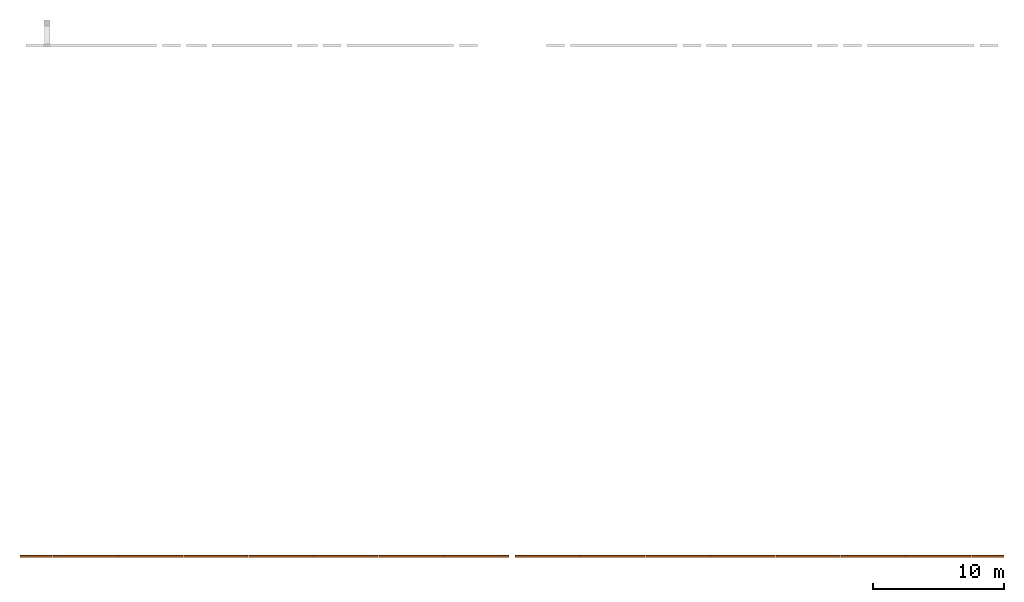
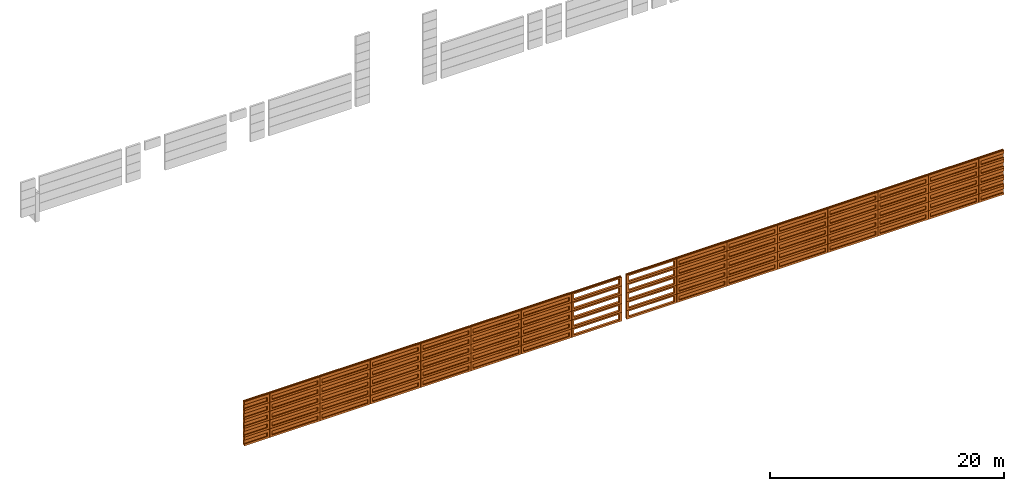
# One storey, part 3 of 3: 80 proxies.
"""IFC2X3 building model written with IfcOpenShell, lengths in millimetres."""

from ifc_helpers import new_model, entity, si_unit, converted_unit, derived_unit, direction, frame, origin, place, context, subcontext, project, spatial, faceted_brep, source, transform, mapped, material, type_object, type_shapes, element, save


model = new_model("IFC2X3")

# Units and contexts
model_context = context("Model", 3, precision=0.01, world=origin(), true_north=direction((6.12303176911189e-17, 1.0)))
body_context = subcontext(model_context, "Body", "Model", "MODEL_VIEW")
ifc_project = project(units=[si_unit("LENGTHUNIT", "METRE", prefix="MILLI"), si_unit("AREAUNIT", "SQUARE_METRE"), si_unit("VOLUMEUNIT", "CUBIC_METRE"), converted_unit("PLANEANGLEUNIT", "DEGREE", entity("IfcRatioMeasure", 0.0174532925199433), si_unit("PLANEANGLEUNIT", "RADIAN"), dimensions=[0, 0, 0, 0, 0, 0, 0]), si_unit("MASSUNIT", "GRAM", prefix="KILO"), derived_unit("MASSDENSITYUNIT", [(si_unit("MASSUNIT", "GRAM", prefix="KILO"), 1), (si_unit("LENGTHUNIT", "METRE"), -3)]), derived_unit("MOMENTOFINERTIAUNIT", [(si_unit("LENGTHUNIT", "METRE"), 4)]), si_unit("TIMEUNIT", "SECOND"), si_unit("FREQUENCYUNIT", "HERTZ"), si_unit("THERMODYNAMICTEMPERATUREUNIT", "DEGREE_CELSIUS"), derived_unit("THERMALTRANSMITTANCEUNIT", [(si_unit("MASSUNIT", "GRAM", prefix="KILO"), 1), (si_unit("THERMODYNAMICTEMPERATUREUNIT", "KELVIN"), -1), (si_unit("TIMEUNIT", "SECOND"), -3)]), derived_unit("VOLUMETRICFLOWRATEUNIT", [(si_unit("LENGTHUNIT", "METRE"), 3), (si_unit("TIMEUNIT", "SECOND"), -1)]), si_unit("ELECTRICCURRENTUNIT", "AMPERE"), si_unit("ELECTRICVOLTAGEUNIT", "VOLT"), si_unit("POWERUNIT", "WATT"), si_unit("FORCEUNIT", "NEWTON", prefix="KILO"), si_unit("ILLUMINANCEUNIT", "LUX"), si_unit("LUMINOUSFLUXUNIT", "LUMEN"), si_unit("LUMINOUSINTENSITYUNIT", "CANDELA"), derived_unit("USERDEFINED", [(si_unit("MASSUNIT", "GRAM", prefix="KILO"), -1), (si_unit("LENGTHUNIT", "METRE"), -2), (si_unit("TIMEUNIT", "SECOND"), 3), (si_unit("LUMINOUSFLUXUNIT", "LUMEN"), 1)]), derived_unit("LINEARVELOCITYUNIT", [(si_unit("LENGTHUNIT", "METRE"), 1), (si_unit("TIMEUNIT", "SECOND"), -1)]), si_unit("PRESSUREUNIT", "PASCAL"), derived_unit("USERDEFINED", [(si_unit("LENGTHUNIT", "METRE"), -2), (si_unit("MASSUNIT", "GRAM", prefix="KILO"), 1), (si_unit("TIMEUNIT", "SECOND"), -2)]), derived_unit("LINEARFORCEUNIT", [(si_unit("MASSUNIT", "GRAM", prefix="KILO"), 1), (si_unit("LENGTHUNIT", "METRE"), 1), (si_unit("TIMEUNIT", "SECOND"), -2), (si_unit("LENGTHUNIT", "METRE"), -1)]), derived_unit("PLANARFORCEUNIT", [(si_unit("MASSUNIT", "GRAM", prefix="KILO"), 1), (si_unit("LENGTHUNIT", "METRE"), 1), (si_unit("TIMEUNIT", "SECOND"), -2), (si_unit("LENGTHUNIT", "METRE"), -2)])], contexts=[model_context])

# Site, building, storey
site_placement = place(None, frame((10627.5135316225, 21939.0796949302, 0.0)))
site = spatial("IfcSite", under=ifc_project, at=site_placement, Name="Default", CompositionType="ELEMENT")
building_placement = place(site_placement, origin())
building = spatial("IfcBuilding", under=site, at=building_placement, CompositionType="ELEMENT")
storey_placement = place(building_placement, frame((0.0, 0.0, 3660.0)))
storey = spatial("IfcBuildingStorey", under=building, at=storey_placement, Name="R+1", CompositionType="ELEMENT", Elevation=3660.0)

# Proxies
ifc_material = material(Name="Concrete, Precast Smooth, Light Grey")
building_element_proxy_type_1 = type_object("IfcBuildingElementProxyType", Name="Panneaux fille 18 ajoures:Panneaux fille 18 ajoures", PredefinedType="NOTDEFINED", material=ifc_material)
shared_shape_1 = source(origin(), body_context, "Body", "Brep", [
    faceted_brep([(2469.0, -101.438076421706, -51.6077760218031), (2469.0, 0.0, -60.0), (2469.0, 0.0, 849.947802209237), (2469.0, -111.86949138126, 859.004887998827), (2469.0, -132.472854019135, 910.0), (2469.0, -205.0, 910.0), (2469.0, -205.0, 0.0), (2469.0, -122.139961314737, 0.0), (-2469.0, -101.438076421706, -51.6077760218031), (-2469.0, -122.139961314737, 0.0), (-2469.0, -205.0, 0.0), (-2469.0, -205.0, 910.0), (-2469.0, -132.472854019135, 910.0), (-2469.0, -111.86949138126, 859.004887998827), (-2469.0, 0.0, 849.947802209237), (-2469.0, 0.0, -60.0), (2266.0, 0.0, 711.195062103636), (-2247.406298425, 0.0, 711.195062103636), (-2247.406298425, 0.0, 138.918268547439), (2266.0, 0.0, 138.918268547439), (-2208.456298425, -205.0, 711.195062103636), (2227.05, -205.0, 711.195062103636), (2227.05, -205.0, 138.918268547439), (-2208.456298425, -205.0, 138.918268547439)], [[[0, 1, 2, 3, 4, 5, 6, 7]], [[8, 9, 10, 11, 12, 13, 14, 15]], [[2, 1, 15, 14], [16, 17, 18, 19]], [[3, 2, 14, 13]], [[4, 3, 13, 12]], [[5, 4, 12, 11]], [[6, 5, 11, 10], [20, 21, 22, 23]], [[7, 6, 10, 9]], [[0, 7, 9, 8]], [[1, 0, 8, 15]], [[20, 17, 16, 21]], [[22, 19, 18, 23]], [[21, 16, 19, 22]], [[17, 20, 23, 18]]]),
])
type_shapes(building_element_proxy_type_1, [shared_shape_1])
for number, where, z_axis, x_axis, name in (
    (1, (23878.4864683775, -22365.8040495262, 220.0), (0.0, 0.0, 1.0), (-1.0, 0.0, 0.0), "Panneaux fille 18 ajoures:Panneaux fille 18 ajoures"),
    (2, (23878.4864683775, -22365.8040495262, 1140.0), (0.0, 0.0, 1.0), (-1.0, 0.0, 0.0), "Panneaux fille 18 ajoures:Panneaux fille 18 ajoures"),
    (3, (23878.4864683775, -22365.8040495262, 2060.0), (0.0, 0.0, 1.0), (-1.0, 0.0, 0.0), "Panneaux fille 18 ajoures:Panneaux fille 18 ajoures"),
    (4, (23878.4864683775, -22365.8040495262, 2980.0), (0.0, 0.0, 1.0), (-1.0, 0.0, 0.0), "Panneaux fille 18 ajoures:Panneaux fille 18 ajoures"),
    (5, (23878.4864683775, -22365.8040495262, 3900.0), (0.0, 0.0, 1.0), (-1.0, 0.0, 0.0), "Panneaux fille 18 ajoures:Panneaux fille 18 ajoures"),
):
    element("IfcBuildingElementProxy", number, at=place(storey_placement, frame(where, z_axis=z_axis, x_axis=x_axis)), inside=storey, type_object=building_element_proxy_type_1, material=ifc_material, Name=name, ObjectType="Panneaux fille 18 ajoures:Panneaux fille 18 ajoures", context=body_context, shape_type="MappedRepresentation", body=[
        mapped(shared_shape_1, transform((0.0, 0.0, 0.0), scale=1.0)),
    ])
building_element_proxy_type_2 = type_object("IfcBuildingElementProxyType", Name="Panneaux fille 18:Panneaux fille 18", PredefinedType="NOTDEFINED", material=ifc_material)
shared_shape_2 = source(origin(), body_context, "Body", "Brep", [
    faceted_brep([(2469.0, -101.438076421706, -51.6077760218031), (2469.0, 0.0, -60.0), (2469.0, 0.0, 849.947802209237), (2469.0, -111.86949138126, 859.004887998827), (2469.0, -132.472854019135, 910.0), (2469.0, -205.0, 910.0), (2469.0, -205.0, 0.0), (2469.0, -122.139961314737, 0.0), (-2469.0, -101.438076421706, -51.6077760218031), (-2469.0, -122.139961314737, 0.0), (-2469.0, -205.0, 0.0), (-2469.0, -205.0, 910.0), (-2469.0, -132.472854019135, 910.0), (-2469.0, -111.86949138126, 859.004887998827), (-2469.0, 0.0, 849.947802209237), (-2469.0, 0.0, -60.0), (2266.0, 0.0, 540.228023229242), (-2266.21685996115, 0.0, 540.228023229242), (-2266.21685996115, 0.0, 138.918268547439), (2266.0, 0.0, 138.918268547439), (2247.39157001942, -97.9391051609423, 540.228023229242), (-2247.60842998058, -97.9391051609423, 540.228023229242), (-2247.60842998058, -97.9391051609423, 138.918268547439), (2247.39157001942, -97.9391051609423, 138.918268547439)], [[[0, 1, 2, 3, 4, 5, 6, 7]], [[8, 9, 10, 11, 12, 13, 14, 15]], [[2, 1, 15, 14], [16, 17, 18, 19]], [[3, 2, 14, 13]], [[4, 3, 13, 12]], [[5, 4, 12, 11]], [[6, 5, 11, 10]], [[7, 6, 10, 9]], [[0, 7, 9, 8]], [[1, 0, 8, 15]], [[20, 21, 17, 16]], [[22, 23, 19, 18]], [[23, 20, 16, 19]], [[21, 22, 18, 17]], [[21, 20, 23, 22]]]),
])
type_shapes(building_element_proxy_type_2, [shared_shape_2])
for number, where, z_axis, x_axis, name in (
    (6, (18920.865600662, -22365.8040495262, 220.0), (0.0, 0.0, 1.0), (-1.0, 0.0, 0.0), "Panneaux fille 18:Panneaux fille 18"),
    (7, (18920.865600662, -22365.8040495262, 1140.0), (0.0, 0.0, 1.0), (-1.0, 0.0, 0.0), "Panneaux fille 18:Panneaux fille 18"),
    (8, (18920.865600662, -22365.8040495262, 2060.0), (0.0, 0.0, 1.0), (-1.0, 0.0, 0.0), "Panneaux fille 18:Panneaux fille 18"),
    (9, (18920.865600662, -22365.8040495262, 2980.0), (0.0, 0.0, 1.0), (-1.0, 0.0, 0.0), "Panneaux fille 18:Panneaux fille 18"),
    (10, (18920.865600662, -22365.8040495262, 3900.0), (0.0, 0.0, 1.0), (-1.0, 0.0, 0.0), "Panneaux fille 18:Panneaux fille 18"),
    (11, (13960.7458132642, -22365.8040495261, 220.0), (0.0, 0.0, 1.0), (-1.0, 0.0, 0.0), "Panneaux fille 18:Panneaux fille 18"),
    (12, (13960.7458132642, -22365.8040495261, 1140.0), (0.0, 0.0, 1.0), (-1.0, 0.0, 0.0), "Panneaux fille 18:Panneaux fille 18"),
    (13, (13960.7458132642, -22365.8040495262, 2060.0), (0.0, 0.0, 1.0), (-1.0, 0.0, 0.0), "Panneaux fille 18:Panneaux fille 18"),
    (14, (13960.7458132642, -22365.8040495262, 2980.0), (0.0, 0.0, 1.0), (-1.0, 0.0, 0.0), "Panneaux fille 18:Panneaux fille 18"),
    (15, (13960.7458132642, -22365.8040495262, 3900.0), (0.0, 0.0, 1.0), (-1.0, 0.0, 0.0), "Panneaux fille 18:Panneaux fille 18"),
    (16, (9000.62602586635, -22365.8040495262, 220.0), (0.0, 0.0, 1.0), (-1.0, 0.0, 0.0), "Panneaux fille 18:Panneaux fille 18"),
    (17, (9000.62602586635, -22365.8040495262, 1140.0), (0.0, 0.0, 1.0), (-1.0, 0.0, 0.0), "Panneaux fille 18:Panneaux fille 18"),
    (18, (9000.62602586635, -22365.8040495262, 2060.0), (0.0, 0.0, 1.0), (-1.0, 0.0, 0.0), "Panneaux fille 18:Panneaux fille 18"),
    (19, (9000.62602586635, -22365.8040495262, 2980.0), (0.0, 0.0, 1.0), (-1.0, 0.0, 0.0), "Panneaux fille 18:Panneaux fille 18"),
    (20, (9000.62602586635, -22365.8040495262, 3900.0), (0.0, 0.0, 1.0), (-1.0, 0.0, 0.0), "Panneaux fille 18:Panneaux fille 18"),
    (21, (4040.50623846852, -22365.8040495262, 220.0), (0.0, 0.0, 1.0), (-1.0, 0.0, 0.0), "Panneaux fille 18:Panneaux fille 18"),
    (22, (4040.50623846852, -22365.8040495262, 1140.0), (0.0, 0.0, 1.0), (-1.0, 0.0, 0.0), "Panneaux fille 18:Panneaux fille 18"),
    (23, (4040.50623846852, -22365.8040495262, 2060.0), (0.0, 0.0, 1.0), (-1.0, 0.0, 0.0), "Panneaux fille 18:Panneaux fille 18"),
    (24, (4040.50623846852, -22365.8040495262, 2980.0), (0.0, 0.0, 1.0), (-1.0, 0.0, 0.0), "Panneaux fille 18:Panneaux fille 18"),
    (25, (4040.50623846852, -22365.8040495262, 3900.0), (0.0, 0.0, 1.0), (-1.0, 0.0, 0.0), "Panneaux fille 18:Panneaux fille 18"),
    (26, (-919.613548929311, -22365.8040495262, 220.0), (0.0, 0.0, 1.0), (-1.0, 0.0, 0.0), "Panneaux fille 18:Panneaux fille 18"),
    (27, (-919.613548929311, -22365.8040495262, 1140.0), (0.0, 0.0, 1.0), (-1.0, 0.0, 0.0), "Panneaux fille 18:Panneaux fille 18"),
    (28, (-919.613548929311, -22365.8040495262, 2060.0), (0.0, 0.0, 1.0), (-1.0, 0.0, 0.0), "Panneaux fille 18:Panneaux fille 18"),
    (29, (-919.613548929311, -22365.8040495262, 2980.0), (0.0, 0.0, 1.0), (-1.0, 0.0, 0.0), "Panneaux fille 18:Panneaux fille 18"),
    (30, (-919.613548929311, -22365.8040495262, 3900.0), (0.0, 0.0, 1.0), (-1.0, 0.0, 0.0), "Panneaux fille 18:Panneaux fille 18"),
    (31, (-5879.73333632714, -22365.8040495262, 220.0), (0.0, 0.0, 1.0), (-1.0, 0.0, 0.0), "Panneaux fille 18:Panneaux fille 18"),
    (32, (-5879.73333632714, -22365.8040495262, 1140.0), (0.0, 0.0, 1.0), (-1.0, 0.0, 0.0), "Panneaux fille 18:Panneaux fille 18"),
    (33, (-5879.73333632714, -22365.8040495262, 2060.0), (0.0, 0.0, 1.0), (-1.0, 0.0, 0.0), "Panneaux fille 18:Panneaux fille 18"),
    (34, (-5879.73333632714, -22365.8040495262, 2980.0), (0.0, 0.0, 1.0), (-1.0, 0.0, 0.0), "Panneaux fille 18:Panneaux fille 18"),
    (35, (-5879.73333632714, -22365.8040495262, 3900.0), (0.0, 0.0, 1.0), (-1.0, 0.0, 0.0), "Panneaux fille 18:Panneaux fille 18"),
):
    element("IfcBuildingElementProxy", number, at=place(storey_placement, frame(where, z_axis=z_axis, x_axis=x_axis)), inside=storey, type_object=building_element_proxy_type_2, material=ifc_material, Name=name, ObjectType="Panneaux fille 18:Panneaux fille 18", context=body_context, shape_type="MappedRepresentation", body=[
        mapped(shared_shape_2, transform((0.0, 0.0, 0.0), scale=1.0)),
    ])
building_element_proxy_type_3 = type_object("IfcBuildingElementProxyType", Name="Panneaux fille 18:Panneaux fille 18", PredefinedType="NOTDEFINED", material=ifc_material)
shared_shape_3 = source(origin(), body_context, "Body", "Brep", [
    faceted_brep([(2469.0, 101.438076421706, -51.6077760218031), (2469.0, 122.139961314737, 0.0), (2469.0, 205.0, 0.0), (2469.0, 205.0, 910.0), (2469.0, 132.472854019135, 910.0), (2469.0, 111.86949138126, 859.004887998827), (2469.0, 0.0, 849.947802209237), (2469.0, 0.0, -60.0), (-2469.0, 101.438076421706, -51.6077760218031), (-2469.0, 0.0, -60.0), (-2469.0, 0.0, 849.947802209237), (-2469.0, 111.86949138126, 859.004887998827), (-2469.0, 132.472854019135, 910.0), (-2469.0, 205.0, 910.0), (-2469.0, 205.0, 0.0), (-2469.0, 122.139961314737, 0.0), (2266.0, 0.0, 540.228023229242), (2266.0, 0.0, 138.918268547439), (-2266.21685996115, 0.0, 138.918268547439), (-2266.21685996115, 0.0, 540.228023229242), (2247.39157001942, 97.9391051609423, 540.228023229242), (-2247.60842998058, 97.9391051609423, 540.228023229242), (-2247.60842998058, 97.9391051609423, 138.918268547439), (2247.39157001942, 97.9391051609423, 138.918268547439)], [[[0, 1, 2, 3, 4, 5, 6, 7]], [[8, 9, 10, 11, 12, 13, 14, 15]], [[6, 10, 9, 7], [16, 17, 18, 19]], [[5, 11, 10, 6]], [[4, 12, 11, 5]], [[3, 13, 12, 4]], [[2, 14, 13, 3]], [[1, 15, 14, 2]], [[0, 8, 15, 1]], [[7, 9, 8, 0]], [[20, 16, 19, 21]], [[22, 18, 17, 23]], [[23, 17, 16, 20]], [[21, 19, 18, 22]], [[21, 22, 23, 20]]]),
])
type_shapes(building_element_proxy_type_3, [shared_shape_3])
for number, where, name in (
    (36, (34234.1073360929, -22365.8040495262, 220.0), "Panneaux fille 18:Panneaux fille 18"),
    (37, (34234.1073360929, -22365.8040495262, 1140.0), "Panneaux fille 18:Panneaux fille 18"),
    (38, (34234.1073360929, -22365.8040495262, 2060.0), "Panneaux fille 18:Panneaux fille 18"),
    (39, (34234.1073360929, -22365.8040495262, 2980.0), "Panneaux fille 18:Panneaux fille 18"),
    (40, (34234.1073360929, -22365.8040495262, 3900.0), "Panneaux fille 18:Panneaux fille 18"),
    (41, (39194.2271234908, -22365.8040495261, 220.0), "Panneaux fille 18:Panneaux fille 18"),
    (42, (39194.2271234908, -22365.8040495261, 1140.0), "Panneaux fille 18:Panneaux fille 18"),
    (43, (39194.2271234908, -22365.8040495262, 2060.0), "Panneaux fille 18:Panneaux fille 18"),
    (44, (39194.2271234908, -22365.8040495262, 2980.0), "Panneaux fille 18:Panneaux fille 18"),
    (45, (39194.2271234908, -22365.8040495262, 3900.0), "Panneaux fille 18:Panneaux fille 18"),
    (46, (44154.3469108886, -22365.8040495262, 220.0), "Panneaux fille 18:Panneaux fille 18"),
    (47, (44154.3469108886, -22365.8040495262, 1140.0), "Panneaux fille 18:Panneaux fille 18"),
    (48, (44154.3469108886, -22365.8040495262, 2060.0), "Panneaux fille 18:Panneaux fille 18"),
    (49, (44154.3469108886, -22365.8040495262, 2980.0), "Panneaux fille 18:Panneaux fille 18"),
    (50, (44154.3469108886, -22365.8040495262, 3900.0), "Panneaux fille 18:Panneaux fille 18"),
    (51, (49114.4666982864, -22365.8040495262, 220.0), "Panneaux fille 18:Panneaux fille 18"),
    (52, (49114.4666982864, -22365.8040495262, 1140.0), "Panneaux fille 18:Panneaux fille 18"),
    (53, (49114.4666982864, -22365.8040495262, 2060.0), "Panneaux fille 18:Panneaux fille 18"),
    (54, (49114.4666982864, -22365.8040495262, 2980.0), "Panneaux fille 18:Panneaux fille 18"),
    (55, (49114.4666982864, -22365.8040495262, 3900.0), "Panneaux fille 18:Panneaux fille 18"),
    (56, (54074.5864856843, -22365.8040495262, 220.0), "Panneaux fille 18:Panneaux fille 18"),
    (57, (54074.5864856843, -22365.8040495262, 1140.0), "Panneaux fille 18:Panneaux fille 18"),
    (58, (54074.5864856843, -22365.8040495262, 2060.0), "Panneaux fille 18:Panneaux fille 18"),
    (59, (54074.5864856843, -22365.8040495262, 2980.0), "Panneaux fille 18:Panneaux fille 18"),
    (60, (54074.5864856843, -22365.8040495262, 3900.0), "Panneaux fille 18:Panneaux fille 18"),
    (61, (59034.7062730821, -22365.8040495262, 220.0), "Panneaux fille 18:Panneaux fille 18"),
    (62, (59034.7062730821, -22365.8040495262, 1140.0), "Panneaux fille 18:Panneaux fille 18"),
    (63, (59034.7062730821, -22365.8040495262, 2060.0), "Panneaux fille 18:Panneaux fille 18"),
    (64, (59034.7062730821, -22365.8040495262, 2980.0), "Panneaux fille 18:Panneaux fille 18"),
    (65, (59034.7062730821, -22365.8040495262, 3900.0), "Panneaux fille 18:Panneaux fille 18"),
):
    element("IfcBuildingElementProxy", number, at=place(storey_placement, frame(where)), inside=storey, type_object=building_element_proxy_type_3, material=ifc_material, Name=name, ObjectType="Panneaux fille 18:Panneaux fille 18", context=body_context, shape_type="MappedRepresentation", body=[
        mapped(shared_shape_3, transform((0.0, 0.0, 0.0), scale=1.0)),
    ])
building_element_proxy_type_4 = type_object("IfcBuildingElementProxyType", Name="Panneaux fille 18 ajoures:Panneaux fille 18 ajoures", PredefinedType="NOTDEFINED", material=ifc_material)
shared_shape_4 = source(origin(), body_context, "Body", "Brep", [
    faceted_brep([(2469.0, 101.438076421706, -51.6077760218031), (2469.0, 122.139961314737, 0.0), (2469.0, 205.0, 0.0), (2469.0, 205.0, 910.0), (2469.0, 132.472854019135, 910.0), (2469.0, 111.86949138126, 859.004887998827), (2469.0, 0.0, 849.947802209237), (2469.0, 0.0, -60.0), (-2469.0, 101.438076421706, -51.6077760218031), (-2469.0, 0.0, -60.0), (-2469.0, 0.0, 849.947802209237), (-2469.0, 111.86949138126, 859.004887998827), (-2469.0, 132.472854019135, 910.0), (-2469.0, 205.0, 910.0), (-2469.0, 205.0, 0.0), (-2469.0, 122.139961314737, 0.0), (2266.0, 0.0, 711.195062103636), (2266.0, 0.0, 138.918268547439), (-2247.406298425, 0.0, 138.918268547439), (-2247.406298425, 0.0, 711.195062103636), (-2208.456298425, 205.0, 711.195062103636), (-2208.456298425, 205.0, 138.918268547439), (2227.05, 205.0, 138.918268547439), (2227.05, 205.0, 711.195062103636)], [[[0, 1, 2, 3, 4, 5, 6, 7]], [[8, 9, 10, 11, 12, 13, 14, 15]], [[16, 17, 18, 19], [6, 10, 9, 7]], [[5, 11, 10, 6]], [[4, 12, 11, 5]], [[3, 13, 12, 4]], [[2, 14, 13, 3], [20, 21, 22, 23]], [[1, 15, 14, 2]], [[0, 8, 15, 1]], [[7, 9, 8, 0]], [[20, 23, 16, 19]], [[22, 21, 18, 17]], [[23, 22, 17, 16]], [[19, 18, 21, 20]]], outer=[[True], [True], [False, True], [True], [True], [True], [True, False], [True], [True], [True], [True], [True], [True], [True]]),
])
type_shapes(building_element_proxy_type_4, [shared_shape_4])
for number, where, name in (
    (66, (29276.4864683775, -22365.8040495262, 220.0), "Panneaux fille 18 ajoures:Panneaux fille 18 ajoures"),
    (67, (29276.4864683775, -22365.8040495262, 1140.0), "Panneaux fille 18 ajoures:Panneaux fille 18 ajoures"),
    (68, (29276.4864683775, -22365.8040495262, 2060.0), "Panneaux fille 18 ajoures:Panneaux fille 18 ajoures"),
    (69, (29276.4864683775, -22365.8040495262, 2980.0), "Panneaux fille 18 ajoures:Panneaux fille 18 ajoures"),
    (70, (29276.4864683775, -22365.8040495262, 3900.0), "Panneaux fille 18 ajoures:Panneaux fille 18 ajoures"),
):
    element("IfcBuildingElementProxy", number, at=place(storey_placement, frame(where)), inside=storey, type_object=building_element_proxy_type_4, material=ifc_material, Name=name, ObjectType="Panneaux fille 18 ajoures:Panneaux fille 18 ajoures", context=body_context, shape_type="MappedRepresentation", body=[
        mapped(shared_shape_4, transform((0.0, 0.0, 0.0), scale=1.0)),
    ])
building_element_proxy_type_5 = type_object("IfcBuildingElementProxyType", Name="Panneaux fille 18 les extremes:Panneaux fille 18 les extremes", PredefinedType="NOTDEFINED", material=ifc_material)
shared_shape_5 = source(origin(), body_context, "Body", "Brep", [
    faceted_brep([(0.0, -101.438076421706, -51.6077760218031), (0.0, 0.0, -60.0), (0.0, 0.0, 138.918268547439), (0.0, -97.9391051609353, 138.918268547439), (0.0, -97.9391051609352, 540.228023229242), (0.0, 0.0, 540.228023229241), (0.0, 0.0, 849.947802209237), (0.0, -111.86949138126, 859.004887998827), (0.0, -132.472854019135, 910.0), (0.0, -205.0, 910.0), (0.0, -205.0, 0.0), (0.0, -122.139961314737, 0.0), (-2471.0, -101.438076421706, -51.6077760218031), (-2471.0, -122.139961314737, 0.0), (-2471.0, -205.0, 0.0), (-2471.0, -205.0, 910.0), (-2471.0, -132.472854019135, 910.0), (-2471.0, -111.86949138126, 859.004887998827), (-2471.0, 0.0, 849.947802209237), (-2471.0, 0.0, -60.0), (-2268.21685996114, 0.0, 540.228023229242), (-2268.21685996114, 0.0, 138.918268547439), (-2249.60842998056, -97.939105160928, 540.228023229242), (-2249.60842998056, -97.939105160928, 138.918268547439)], [[[0, 1, 2, 3, 4, 5, 6, 7, 8, 9, 10, 11]], [[12, 13, 14, 15, 16, 17, 18, 19]], [[19, 18, 6, 5, 20, 21, 2, 1]], [[7, 6, 18, 17]], [[8, 7, 17, 16]], [[9, 8, 16, 15]], [[10, 9, 15, 14]], [[11, 10, 14, 13]], [[0, 11, 13, 12]], [[1, 0, 12, 19]], [[4, 22, 20, 5]], [[21, 23, 3, 2]], [[22, 23, 21, 20]], [[23, 22, 4, 3]]]),
])
type_shapes(building_element_proxy_type_5, [shared_shape_5])
for number, where, z_axis, x_axis, name in (
    (71, (-10849.7333363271, -22365.8040495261, 220.0), (0.0, 0.0, 1.0), (-1.0, 0.0, 0.0), "Panneaux fille 18 les extremes:Panneaux fille 18 les extremes"),
    (72, (-10849.7333363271, -22365.8040495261, 1140.0), (0.0, 0.0, 1.0), (-1.0, 0.0, 0.0), "Panneaux fille 18 les extremes:Panneaux fille 18 les extremes"),
    (73, (-10849.7333363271, -22365.8040495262, 2060.0), (0.0, 0.0, 1.0), (-1.0, 0.0, 0.0), "Panneaux fille 18 les extremes:Panneaux fille 18 les extremes"),
    (74, (-10849.7333363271, -22365.8040495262, 2980.0), (0.0, 0.0, 1.0), (-1.0, 0.0, 0.0), "Panneaux fille 18 les extremes:Panneaux fille 18 les extremes"),
    (75, (-10849.7333363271, -22365.8040495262, 3900.0), (0.0, 0.0, 1.0), (-1.0, 0.0, 0.0), "Panneaux fille 18 les extremes:Panneaux fille 18 les extremes"),
):
    element("IfcBuildingElementProxy", number, at=place(storey_placement, frame(where, z_axis=z_axis, x_axis=x_axis)), inside=storey, type_object=building_element_proxy_type_5, material=ifc_material, Name=name, ObjectType="Panneaux fille 18 les extremes:Panneaux fille 18 les extremes", context=body_context, shape_type="MappedRepresentation", body=[
        mapped(shared_shape_5, transform((0.0, 0.0, 0.0), scale=1.0)),
    ])
building_element_proxy_type_6 = type_object("IfcBuildingElementProxyType", Name="Panneaux fille 18 les extremes:Panneaux fille 18 les extremes", PredefinedType="NOTDEFINED", material=ifc_material)
shared_shape_6 = source(origin(), body_context, "Body", "Brep", [
    faceted_brep([(0.0, 101.438076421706, -51.6077760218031), (0.0, 122.139961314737, 0.0), (0.0, 205.0, 0.0), (0.0, 205.0, 910.0), (0.0, 132.472854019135, 910.0), (0.0, 111.86949138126, 859.004887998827), (0.0, 0.0, 849.947802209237), (0.0, 0.0, 540.228023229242), (0.0, 97.9391051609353, 540.228023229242), (0.0, 97.9391051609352, 138.918268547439), (0.0, 0.0, 138.918268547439), (0.0, 0.0, -60.0), (-2471.0, 101.438076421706, -51.6077760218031), (-2471.0, 0.0, -60.0), (-2471.0, 0.0, 849.947802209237), (-2471.0, 111.86949138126, 859.004887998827), (-2471.0, 132.472854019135, 910.0), (-2471.0, 205.0, 910.0), (-2471.0, 205.0, 0.0), (-2471.0, 122.139961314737, 0.0), (-2268.21685996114, 0.0, 138.918268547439), (-2268.21685996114, 0.0, 540.228023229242), (-2249.60842998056, 97.939105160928, 540.228023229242), (-2249.60842998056, 97.939105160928, 138.918268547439)], [[[0, 1, 2, 3, 4, 5, 6, 7, 8, 9, 10, 11]], [[12, 13, 14, 15, 16, 17, 18, 19]], [[13, 11, 10, 20, 21, 7, 6, 14]], [[5, 15, 14, 6]], [[4, 16, 15, 5]], [[3, 17, 16, 4]], [[2, 18, 17, 3]], [[1, 19, 18, 2]], [[0, 12, 19, 1]], [[11, 13, 12, 0]], [[8, 7, 21, 22]], [[20, 10, 9, 23]], [[22, 21, 20, 23]], [[23, 9, 8, 22]]]),
])
type_shapes(building_element_proxy_type_6, [shared_shape_6])
for number, where, name in (
    (76, (64004.7062730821, -22365.8040495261, 220.0), "Panneaux fille 18 les extremes:Panneaux fille 18 les extremes"),
    (77, (64004.7062730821, -22365.8040495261, 1140.0), "Panneaux fille 18 les extremes:Panneaux fille 18 les extremes"),
    (78, (64004.7062730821, -22365.8040495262, 2060.0), "Panneaux fille 18 les extremes:Panneaux fille 18 les extremes"),
    (79, (64004.7062730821, -22365.8040495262, 2980.0), "Panneaux fille 18 les extremes:Panneaux fille 18 les extremes"),
    (80, (64004.7062730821, -22365.8040495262, 3900.0), "Panneaux fille 18 les extremes:Panneaux fille 18 les extremes"),
):
    element("IfcBuildingElementProxy", number, at=place(storey_placement, frame(where)), inside=storey, type_object=building_element_proxy_type_6, material=ifc_material, Name=name, ObjectType="Panneaux fille 18 les extremes:Panneaux fille 18 les extremes", context=body_context, shape_type="MappedRepresentation", body=[
        mapped(shared_shape_6, transform((0.0, 0.0, 0.0), scale=1.0)),
    ])

save(model, "model.ifc")
